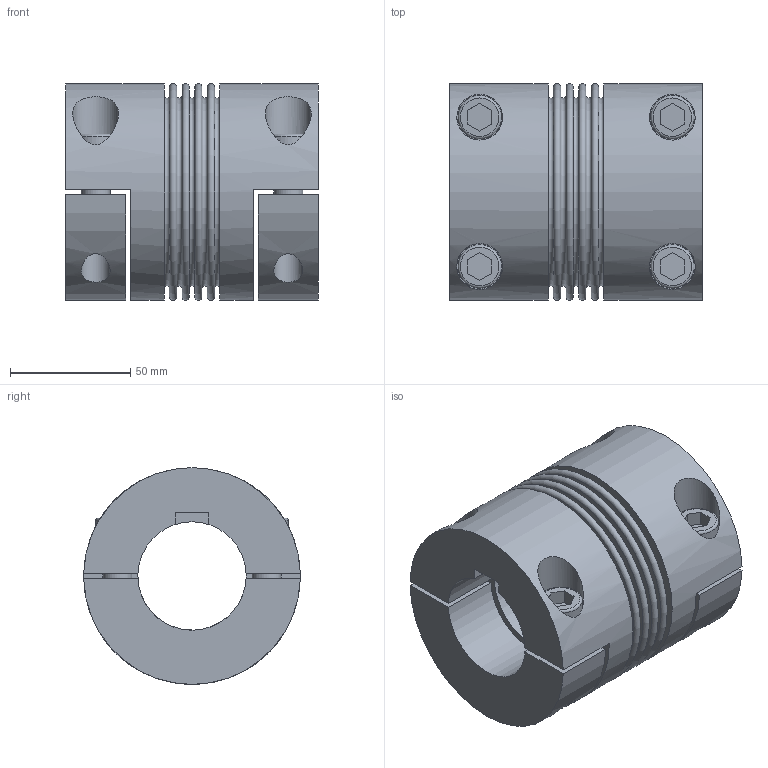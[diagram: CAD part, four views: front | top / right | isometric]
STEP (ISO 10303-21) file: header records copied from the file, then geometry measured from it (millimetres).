
FILE_DESCRIPTION(/* description */ ('STEP AP214'),/* implementation_level */ '2;1');
FILE_NAME(/* name */ 'C:\Diequa Files\DieQua Coupling\BCS\STP\BCS.200.105.#.#.stp',/* time_stamp */ '2018-11-15T09:42:02-06:00',/* author */ ('DiequaCAD'),/* organization */ (''),/* preprocessor_version */ 'ST-DEVELOPER v17.2',/* originating_system */ 'Autodesk Inventor 2019',/* authorisation */ ' ');
FILE_SCHEMA (('AUTOMOTIVE_DESIGN { 1 0 10303 214 3 1 1 }'));
Length unit declared in the file: millimetre
Products named in the file (1): BKH_200_105_45_PFN_45_PFN_23
Bounding box: 105 x 90 x 90 mm (x, y, z)
Volume: 446885.8 mm3; surface area: 89198.4 mm2
Topology: 1 solids, 1 shells, 110 faces, 260 edges, 180 vertices
Faces by surface type: plane 74, cylinder 23, torus 13
Full cylindrical faces by diameter (mm): 12 x8, 18 x4, 19 x4, 45 x1, 90 x2
Entity records: 3571 total; most frequent: CARTESIAN_POINT 855, DIRECTION 575, ORIENTED_EDGE 520, EDGE_CURVE 260, AXIS2_PLACEMENT_3D 216, VERTEX_POINT 180, EDGE_LOOP 144, LINE 143
